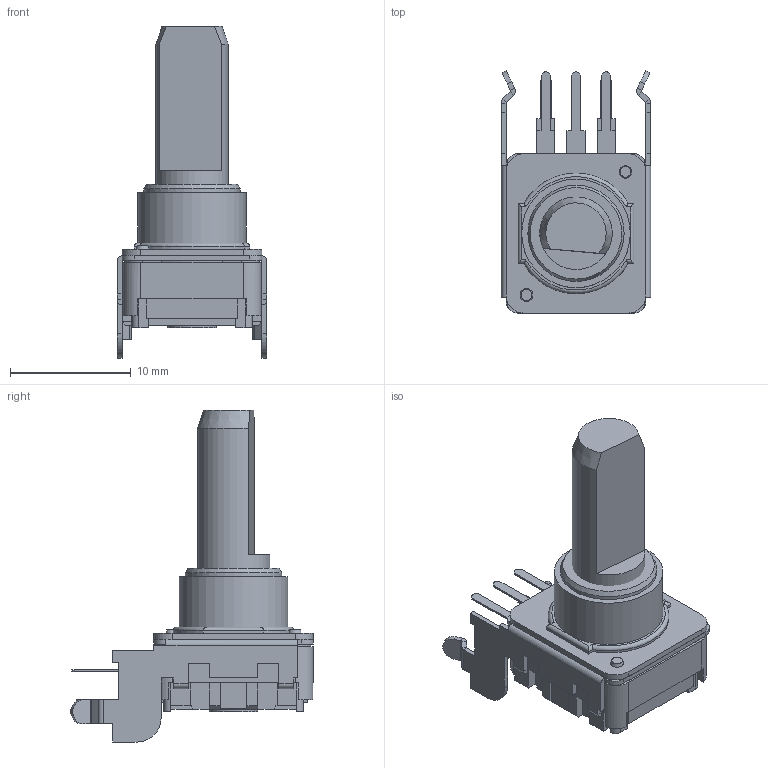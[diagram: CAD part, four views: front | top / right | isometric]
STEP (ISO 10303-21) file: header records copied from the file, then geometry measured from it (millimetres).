
FILE_DESCRIPTION(/* description */ (''),/* implementation_level */ '2;1');
FILE_NAME(/* name */ '\\Forward-ks-ad\開發專區\\X2\9AD896C45EE08A2D8A088AB2\X0\\設計機種開發作業\\X2\91CF75226A5F7A2E5C086848\X0\\ENCODER\機種開發\Encoder\DC12K\3D\CTS\DC12G2421210.stp',/* time_stamp */ '2020-06-16T09:55:53+08:00',/* author */ ('jia'),/* organization */ (''),/* preprocessor_version */ 'ST-DEVELOPER v15.2',/* originating_system */ 'Autodesk Inventor 2014',/* authorisation */ '');
FILE_SCHEMA (('AUTOMOTIVE_DESIGN { 1 0 10303 214 3 1 1 }'));
Length unit declared in the file: millimetre
Products named in the file (1): 組合1_Shrinkwrap_1
Bounding box: 12.4 x 20.09 x 27.51 mm (x, y, z)
Surface area: 2159.2 mm2 (no closed solid volume)
Topology: 0 solids, 21 shells, 314 faces, 888 edges, 578 vertices
Faces by surface type: plane 254, cylinder 54, cone 4, torus 2
Full cylindrical faces by diameter (mm): 4 x1, 6 x1, 7.98 x1, 9 x1
Entity records: 10256 total; most frequent: CARTESIAN_POINT 1848, DIRECTION 1644, ORIENTED_EDGE 1569, EDGE_CURVE 880, LINE 726, VECTOR 726, VERTEX_POINT 577, AXIS2_PLACEMENT_3D 459
